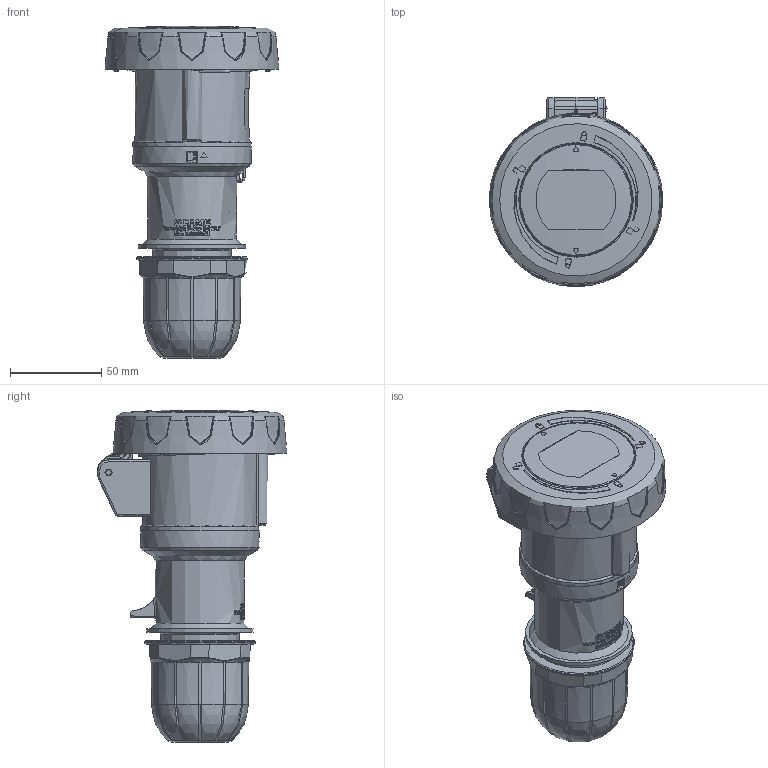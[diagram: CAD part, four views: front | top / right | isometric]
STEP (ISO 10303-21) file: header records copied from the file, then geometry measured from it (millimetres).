
FILE_DESCRIPTION(/* description */ (''),/* implementation_level */ '2;1');
FILE_NAME(/* name */ '4002146.stp',/* time_stamp */ '2021-01-26T08:12:54+01:00',/* author */ (''),/* organization */ (''),/* preprocessor_version */ 'ST-DEVELOPER v16.7',/* originating_system */ 'SIEMENS PLM Software NX 1946',/* authorisation */ '');
FILE_SCHEMA (('AUTOMOTIVE_DESIGN { 1 0 10303 214 3 1 1 1 }'));
Products named in the file (1): BSOM2F4CE3B9j68f
Bounding box: 95 x 103.7 x 181.72 mm (x, y, z)
Volume: 194374.4 mm3; surface area: 210871.9 mm2
Topology: 13 solids, 15 shells, 5022 faces, 13025 edges, 8092 vertices
Faces by surface type: plane 1643, cylinder 960, bspline 784, cone 529, torus 483, extrusion 464, sphere 158, revolution 1
Full cylindrical faces by diameter (mm): 0.2 x1, 0.4 x1, 1 x1, 1.1 x4, 3.2 x2, 3.5 x1, 4 x3, 4.503 x1, 5 x1, 5.14 x1, 5.7 x2, 5.8 x1, 6 x2, 16 x1, 17.5 x1, 44.4 x1, 45.5 x3, 45.9 x1, 46 x1, 46.2 x1, 46.8 x1, 58 x1, 58.7 x1, 60.7 x1, 61.711 x1, 65 x1
Entity records: 202704 total; most frequent: CARTESIAN_POINT 90280, ORIENTED_EDGE 24962, DIRECTION 20185, EDGE_CURVE 12481, VERTEX_POINT 7987, AXIS2_PLACEMENT_3D 7867, EDGE_LOOP 5574, ADVANCED_FACE 5017
